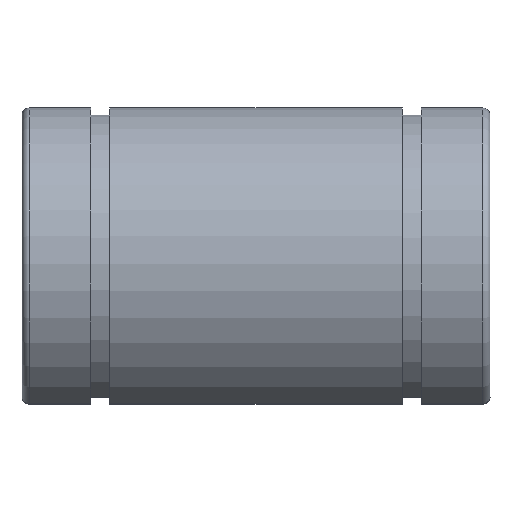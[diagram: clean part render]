
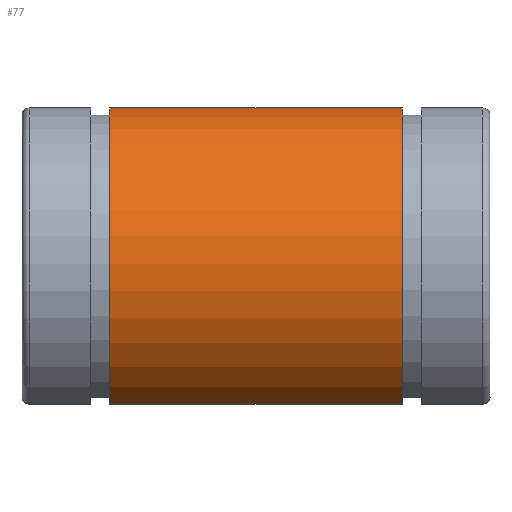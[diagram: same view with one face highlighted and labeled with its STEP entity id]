
A CAD part, top view. The second image highlights one B-rep face of the part: STEP entity #77.
In plain terms, the highlighted cylindrical face has radius 11 mm (diameter 22 mm), a partial arc.
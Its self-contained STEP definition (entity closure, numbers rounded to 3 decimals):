
#77=ADVANCED_FACE('',(#98,#99),#100,.T.);
#98=FACE_BOUND('',#136,.T.);
#99=FACE_OUTER_BOUND('',#137,.T.);
#100=CYLINDRICAL_SURFACE('',#138,11.0);
#136=EDGE_LOOP('',(#194));
#137=EDGE_LOOP('',(#195,#196,#197,#198));
#138=AXIS2_PLACEMENT_3D('',#199,#200,#201);
#194=ORIENTED_EDGE('',*,*,#329,.F.);
#195=ORIENTED_EDGE('',*,*,#330,.T.);
#196=ORIENTED_EDGE('',*,*,#331,.T.);
#197=ORIENTED_EDGE('',*,*,#332,.F.);
#198=ORIENTED_EDGE('',*,*,#319,.T.);
#199=CARTESIAN_POINT('',(-150.0,0.0,0.0));
#200=DIRECTION('',(1.0,-0.0,-0.0));
#201=DIRECTION('',(0.0,0.0,1.0));
#319=EDGE_CURVE('',#371,#369,#372,.F.);
#329=EDGE_CURVE('',#389,#389,#390,.T.);
#330=EDGE_CURVE('',#369,#391,#392,.T.);
#331=EDGE_CURVE('',#391,#393,#394,.T.);
#332=EDGE_CURVE('',#371,#393,#395,.T.);
#369=VERTEX_POINT('',#453);
#371=VERTEX_POINT('',#456);
#372=LINE('',#457,#458);
#389=VERTEX_POINT('',#490);
#390=B_SPLINE_CURVE_WITH_KNOTS('',3,(#491,#492,#493,#494,#495,#496,#497,#498,#499,#500,#501,#502,#503,#504,#505,#506,#507,#508,#509,#510,#511,#512,#513,#514,#515,#516,#517,#518,#519,#520,#521,#522,#523,#524,#525,#526,#527,#528,#529,#530,#531,#532,#533,#534,#535,#536,#537,#538,#539,#540),.UNSPECIFIED.,.T.,.F.,(2,2,2,2,2,2,2,2,2,2,2,2,2,2,2,2,2,2,2,2,2,2,2,2,2,2,2),(-0.001,0.0,0.,0.001,0.001,0.001,0.002,0.002,0.003,0.003,0.004,0.004,0.004,0.004,0.005,0.005,0.006,0.006,0.006,0.007,0.007,0.008,0.008,0.008,0.009,0.009,0.01),.UNSPECIFIED.);
#391=VERTEX_POINT('',#541);
#392=CIRCLE('',#542,11.0);
#393=VERTEX_POINT('',#543);
#394=LINE('',#544,#545);
#395=CIRCLE('',#546,11.0);
#453=CARTESIAN_POINT('',(10.0,-9.237,5.973));
#456=CARTESIAN_POINT('',(-10.0,-9.237,5.973));
#457=CARTESIAN_POINT('',(-150.0,-9.237,5.973));
#458=VECTOR('',#603,1.0);
#490=CARTESIAN_POINT('',(1.5,1.341,-10.918));
#491=CARTESIAN_POINT('',(1.5,1.538,-10.894));
#492=CARTESIAN_POINT('',(1.5,1.242,-10.93));
#493=CARTESIAN_POINT('',(1.49,1.145,-10.941));
#494=CARTESIAN_POINT('',(1.452,0.954,-10.959));
#495=CARTESIAN_POINT('',(1.423,0.859,-10.967));
#496=CARTESIAN_POINT('',(1.348,0.678,-10.979));
#497=CARTESIAN_POINT('',(1.302,0.591,-10.984));
#498=CARTESIAN_POINT('',(1.193,0.428,-10.992));
#499=CARTESIAN_POINT('',(1.13,0.351,-10.995));
#500=CARTESIAN_POINT('',(0.922,0.143,-11.));
#501=CARTESIAN_POINT('',(0.755,0.03,-11.));
#502=CARTESIAN_POINT('',(0.394,-0.121,-11.));
#503=CARTESIAN_POINT('',(0.197,-0.161,-10.999));
#504=CARTESIAN_POINT('',(-0.097,-0.161,-10.999));
#505=CARTESIAN_POINT('',(-0.197,-0.151,-10.999));
#506=CARTESIAN_POINT('',(-0.389,-0.112,-10.999));
#507=CARTESIAN_POINT('',(-0.483,-0.084,-11.));
#508=CARTESIAN_POINT('',(-0.755,0.03,-11.));
#509=CARTESIAN_POINT('',(-0.92,0.141,-11.));
#510=CARTESIAN_POINT('',(-1.13,0.351,-10.995));
#511=CARTESIAN_POINT('',(-1.192,0.427,-10.992));
#512=CARTESIAN_POINT('',(-1.301,0.59,-10.984));
#513=CARTESIAN_POINT('',(-1.348,0.678,-10.979));
#514=CARTESIAN_POINT('',(-1.423,0.859,-10.967));
#515=CARTESIAN_POINT('',(-1.452,0.952,-10.959));
#516=CARTESIAN_POINT('',(-1.49,1.144,-10.941));
#517=CARTESIAN_POINT('',(-1.5,1.243,-10.93));
#518=CARTESIAN_POINT('',(-1.5,1.534,-10.894));
#519=CARTESIAN_POINT('',(-1.461,1.73,-10.865));
#520=CARTESIAN_POINT('',(-1.311,2.086,-10.802));
#521=CARTESIAN_POINT('',(-1.2,2.25,-10.768));
#522=CARTESIAN_POINT('',(-0.993,2.454,-10.723));
#523=CARTESIAN_POINT('',(-0.916,2.516,-10.709));
#524=CARTESIAN_POINT('',(-0.753,2.623,-10.683));
#525=CARTESIAN_POINT('',(-0.667,2.668,-10.672));
#526=CARTESIAN_POINT('',(-0.394,2.778,-10.644));
#527=CARTESIAN_POINT('',(-0.2,2.817,-10.633));
#528=CARTESIAN_POINT('',(0.098,2.817,-10.633));
#529=CARTESIAN_POINT('',(0.195,2.808,-10.636));
#530=CARTESIAN_POINT('',(0.387,2.77,-10.645));
#531=CARTESIAN_POINT('',(0.483,2.742,-10.653));
#532=CARTESIAN_POINT('',(0.664,2.669,-10.671));
#533=CARTESIAN_POINT('',(0.75,2.624,-10.683));
#534=CARTESIAN_POINT('',(0.914,2.517,-10.708));
#535=CARTESIAN_POINT('',(0.991,2.456,-10.723));
#536=CARTESIAN_POINT('',(1.198,2.252,-10.768));
#537=CARTESIAN_POINT('',(1.31,2.088,-10.801));
#538=CARTESIAN_POINT('',(1.46,1.733,-10.864));
#539=CARTESIAN_POINT('',(1.5,1.538,-10.894));
#540=CARTESIAN_POINT('',(1.5,1.242,-10.93));
#541=CARTESIAN_POINT('',(10.0,-9.237,-5.973));
#542=AXIS2_PLACEMENT_3D('',#615,#616,#617);
#543=CARTESIAN_POINT('',(-10.0,-9.237,-5.973));
#544=CARTESIAN_POINT('',(-150.0,-9.237,-5.973));
#545=VECTOR('',#618,1.0);
#546=AXIS2_PLACEMENT_3D('',#619,#620,#621);
#603=DIRECTION('',(-1.0,0.0,0.0));
#615=CARTESIAN_POINT('',(10.0,0.0,0.0));
#616=DIRECTION('',(-1.0,0.0,0.0));
#617=DIRECTION('',(0.0,0.0,1.0));
#618=DIRECTION('',(-1.0,0.0,0.0));
#619=CARTESIAN_POINT('',(-10.0,0.0,0.0));
#620=DIRECTION('',(-1.0,0.0,0.0));
#621=DIRECTION('',(0.0,0.0,1.0));
